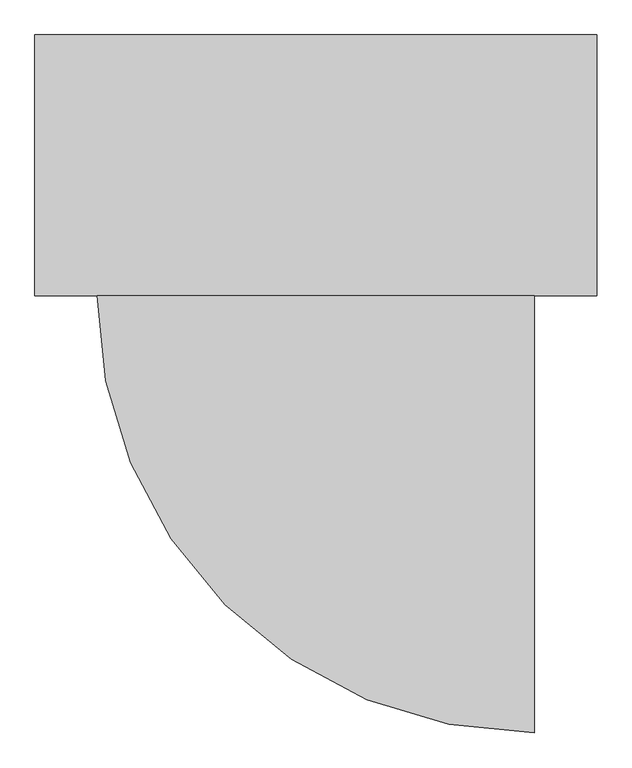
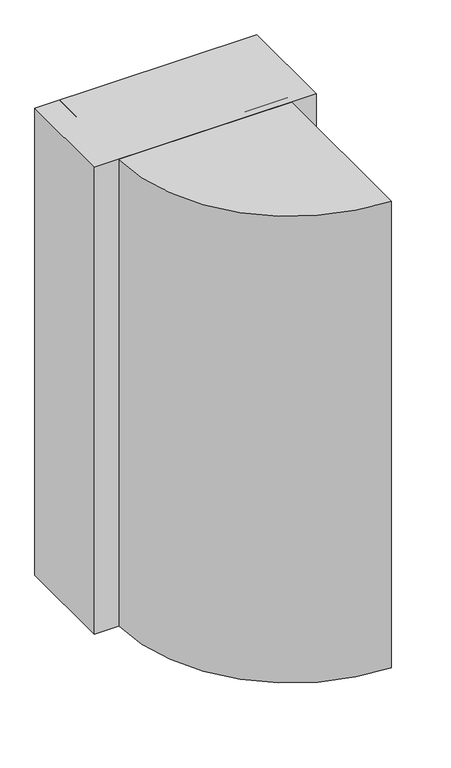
"""IFC4 building model written with IfcOpenShell, lengths in millimetres: electric distribution board geometry, 21000_OA盤 : 右扉."""

from ifc_helpers import new_model, si_unit, point, frame, frame_2d, origin, place, context, project, spatial, polyline, circle_curve, trimmed, segment, composite_curve, outline, extrude, faceted_brep, source, transform, mapped, element, save


def electric_distribution_board_a80f4da7(model_context):
    return source(origin(), model_context, "Body", "SolidModel", [
        extrude(outline(composite_curve([segment(polyline([(350.0, -467.2735707), (350.0, -1167.2830932)]), True, "CONTINUOUS"), segment(trimmed(circle_curve(frame_2d((350.0095226, -467.2735707)), 700.0095226), [point((350.0, -1167.2830932))], [point((-350.0, -467.2735707))], False, "CARTESIAN"), True, "CONTINUOUS"), segment(polyline([(-350.0, -467.2735707), (350.0, -467.2735707)]), True, "CONTINUOUS")], self_intersect=False)), frame((0.0, 0.0, 100.0), z_axis=(0.0, 0.0, 1.0), x_axis=(1.0, 0.0, 0.0)), (0.0, 0.0, 1.0), 2000.0),
        extrude(outline(polyline([(450.0, -467.2735707), (-450.0, -467.2735707), (-450.0, -50.0), (450.0, -50.0), (450.0, -467.2735707)])), frame((0.0, 0.0, 100.0), z_axis=(0.0, 0.0, 1.0), x_axis=(1.0, 0.0, 0.0)), (0.0, 0.0, 1.0), 2000.0),
        faceted_brep([(350.0, -467.2735707, 2100.0), (350.0, -437.2735707, 2100.0), (-350.0, -437.2735707, 2100.0), (-350.0, -467.2735707, 2100.0), (350.0, -467.2735707, 200.0), (-350.0, -467.2735707, 200.0), (-350.0, -437.2735707, 200.0), (350.0, -437.2735707, 200.0), (-280.0, -467.2735707, 1130.0), (-280.0, -467.2735707, 1070.0), (-300.0, -467.2735707, 1070.0), (-300.0, -467.2735707, 1130.0), (-280.0, -447.2735707, 1070.0), (-280.0, -447.2735707, 1130.0), (-300.0, -447.2735707, 1130.0), (-300.0, -447.2735707, 1070.0)], [[[0, 1, 2, 3]], [[4, 5, 6, 7]], [[1, 0, 4, 7]], [[2, 1, 7, 6]], [[3, 2, 6, 5]], [[0, 3, 5, 4], [8, 9, 10, 11]], [[12, 13, 14, 15]], [[13, 12, 9, 8]], [[14, 13, 8, 11]], [[15, 14, 11, 10]], [[12, 15, 10, 9]]]),
        faceted_brep([(-350.0, -50.0, 200.0), (350.0, -50.0, 200.0), (350.0, -437.2735707, 200.0), (330.0, -437.2735707, 200.0), (330.0, -70.0, 200.0), (-330.0, -70.0, 200.0), (-330.0, -437.2735707, 200.0), (-350.0, -437.2735707, 200.0), (-350.0, -437.2735707, 2100.0), (-350.0, -50.0, 2100.0), (-330.0, -437.2735707, 2080.0), (330.0, -437.2735707, 2080.0), (350.0, -437.2735707, 2100.0), (-330.0, -70.0, 2080.0), (330.0, -70.0, 2080.0), (350.0, -50.0, 2100.0)], [[[0, 1, 2, 3, 4, 5, 6, 7]], [[0, 7, 8, 9]], [[8, 7, 6, 10, 11, 3, 2, 12]], [[6, 5, 13, 10]], [[5, 4, 14, 13]], [[4, 3, 11, 14]], [[12, 2, 1, 15]], [[15, 1, 0, 9]], [[12, 15, 9, 8]], [[11, 10, 13, 14]]]),
        extrude(outline(polyline([(350.0, -437.2735707), (-350.0, -437.2735707), (-350.0, -50.0), (350.0, -50.0), (350.0, -437.2735707)])), frame((0.0, 0.0, 100.0), z_axis=(0.0, 0.0, 1.0), x_axis=(1.0, 0.0, 0.0)), (0.0, 0.0, 1.0), 100.0),
    ])


if __name__ == "__main__":
    model = new_model("IFC4")
    model_context = context("Model", 3, world=origin())
    ifc_project = project(units=[si_unit("LENGTHUNIT", "METRE", prefix="MILLI")], contexts=[model_context])
    site = spatial("IfcSite", under=ifc_project)
    building = spatial("IfcBuilding", under=site)
    placement = place(None, origin())
    electric_distribution_board_shape = electric_distribution_board_a80f4da7(model_context)
    element("IfcElectricDistributionBoard", 1, ObjectType="21000_OA盤 : 右扉", at=placement, inside=building, context=model_context, shape_type="MappedRepresentation", body=[
        mapped(electric_distribution_board_shape, transform((0.0, 0.0, 0.0), x_axis=(1.0, 0.0, 0.0), y_axis=(0.0, 1.0, 0.0), z_axis=(0.0, 0.0, 1.0))),
    ])
    save(model, "model.ifc")
